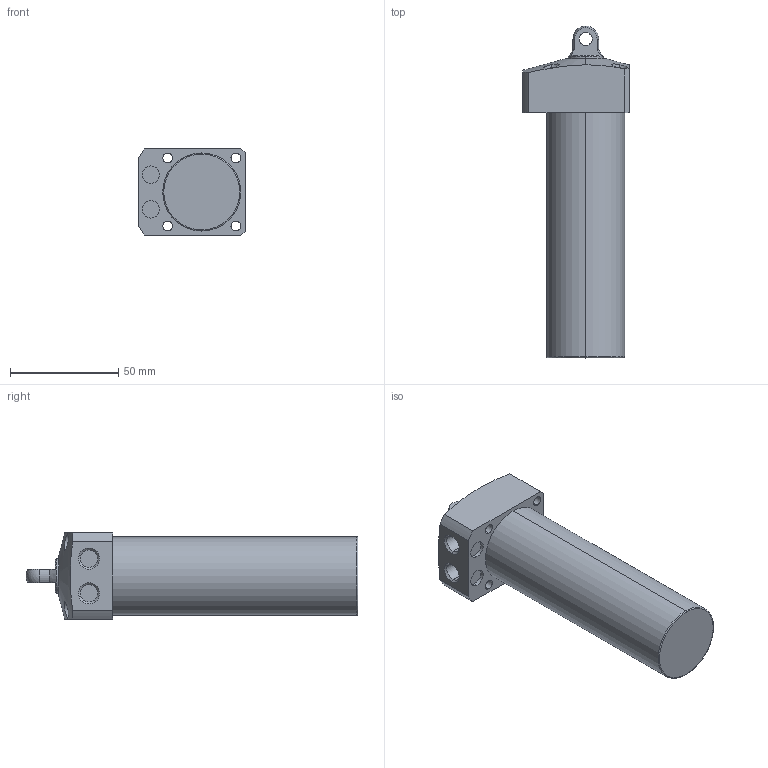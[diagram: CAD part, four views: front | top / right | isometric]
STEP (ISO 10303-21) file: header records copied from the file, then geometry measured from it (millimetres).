
FILE_DESCRIPTION (( 'STEP AP203' ), '1' );
FILE_NAME ('CLL036-CP-090.STEP', '2017-05-17T06:26:53', ( '' ), ( '' ), 'SwSTEP 2.0', 'SolidWorks 2015', '' );
FILE_SCHEMA (( 'CONFIG_CONTROL_DESIGN' ));
Length unit declared in the file: millimetre
Products named in the file (1): CLL036-CP-090
Bounding box: 49 x 153 x 40 mm (x, y, z)
Volume: 156408.7 mm3; surface area: 22827.8 mm2
Topology: 1 solids, 1 shells, 67 faces, 162 edges, 105 vertices
Faces by surface type: cylinder 34, plane 21, cone 8, sphere 2, torus 2
Entity records: 2347 total; most frequent: CARTESIAN_POINT 663, DIRECTION 354, ORIENTED_EDGE 316, EDGE_CURVE 158, AXIS2_PLACEMENT_3D 148, VERTEX_POINT 103, EDGE_LOOP 87, CIRCLE 80
